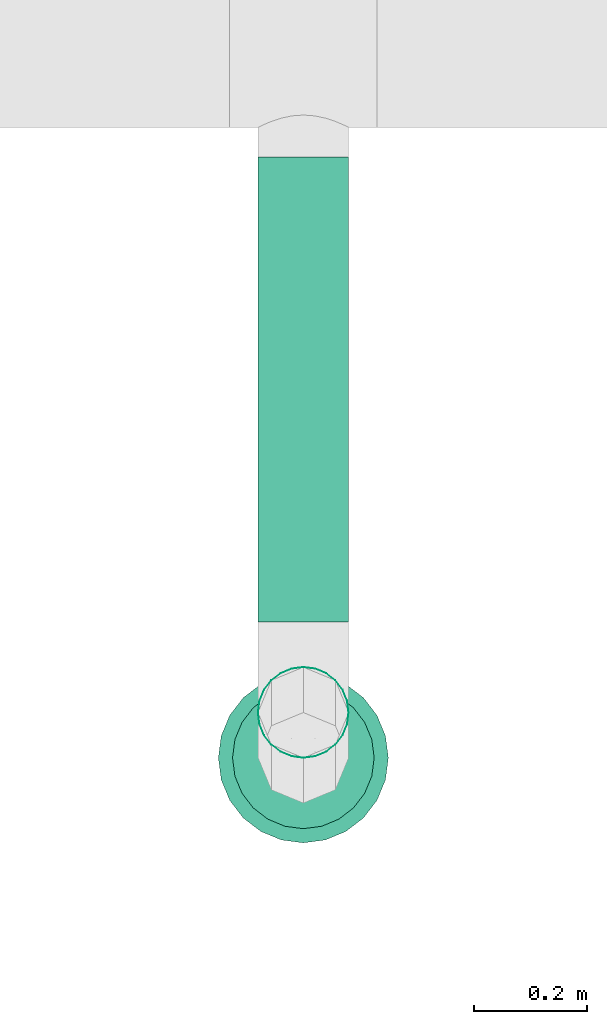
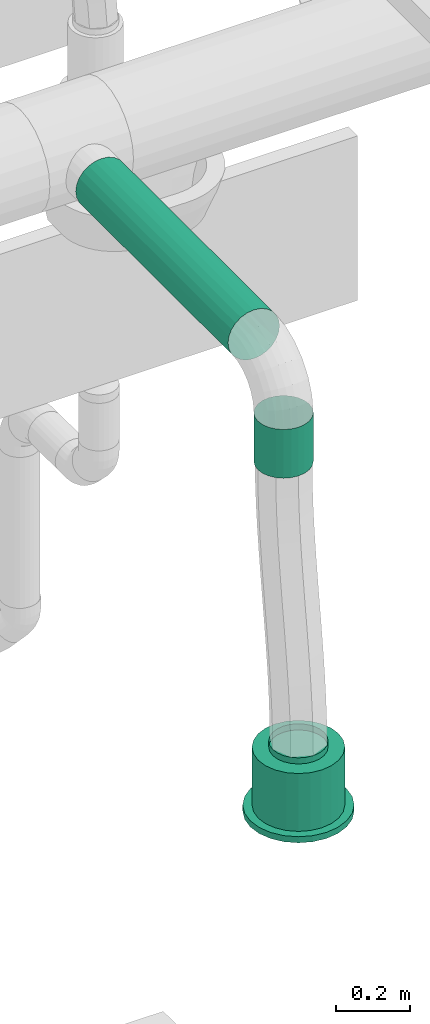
# One storey, part 89 of 374: 2 flow segments, 1 flow terminal.
"""IFC2X3 building model written with IfcOpenShell, lengths in metres."""

from ifc_helpers import new_model, si_unit, direction, origin, place, context, subcontext, project, spatial, open_shell, surface_model, source, transform, mapped, element, save


model = new_model("IFC2X3")

# Units and contexts
model_context = context("Model", 3, precision=1e-05, world=origin(), true_north=direction((-0.4480736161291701, 0.8939966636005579)))
body_context = subcontext(model_context, "Body", "Model", "MODEL_VIEW")
ifc_project = project(units=[si_unit("LENGTHUNIT", "METRE"), si_unit("AREAUNIT", "SQUARE_METRE"), si_unit("VOLUMEUNIT", "CUBIC_METRE"), si_unit("PLANEANGLEUNIT", "RADIAN"), si_unit("THERMODYNAMICTEMPERATUREUNIT", "KELVIN"), si_unit("MASSUNIT", "GRAM", prefix="KILO"), si_unit("TIMEUNIT", "SECOND")], contexts=[model_context])

# Site, building, storey
site_placement = place(None, origin())
site = spatial("IfcSite", under=ifc_project, at=site_placement, Name="Site 1", CompositionType="ELEMENT")
building_placement = place(site_placement, origin())
building = spatial("IfcBuilding", under=site, at=building_placement, Name="Undefined", CompositionType="ELEMENT")
storey_placement = place(building_placement, origin())
storey = spatial("IfcBuildingStorey", under=building, at=storey_placement, Name="Rez de chauss\x8ee", CompositionType="ELEMENT", Elevation=0.0)

# Flow terminal
shared_shape_1 = source(origin(), body_context, "Body", "SurfaceModel", [
    surface_model("IfcFaceBasedSurfaceModel", [(0.0, 0.0, 0.0), (0.03915785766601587, 0.0, 0.0), (0.03915785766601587, 0.020000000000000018, 0.0), (3.552713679e-15, 0.020000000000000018, 0.0), (0.07698144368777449, 0.0, -0.010134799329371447), (0.07698144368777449, 0.020000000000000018, -0.010134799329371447), (0.11089314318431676, 0.0, -0.02971372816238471), (0.11089314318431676, 0.020000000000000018, -0.02971372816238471), (0.13858192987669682, 0.0, -0.05740251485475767), (0.13858192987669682, 0.020000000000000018, -0.05740251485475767), (0.15816085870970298, 0.0, -0.09131421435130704), (0.15816085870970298, 0.020000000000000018, -0.09131421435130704), (0.16829565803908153, 0.0, -0.12913780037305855), (0.16829565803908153, 0.020000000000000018, -0.12913780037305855), (0.16829565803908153, 0.0, -0.16829565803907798), (0.16829565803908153, 0.020000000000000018, -0.16829565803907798), (0.15816085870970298, 0.0, -0.20611924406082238), (0.15816085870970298, 0.020000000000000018, -0.20611924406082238), (0.13858192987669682, 0.0, -0.24003094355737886), (0.13858192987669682, 0.020000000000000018, -0.24003094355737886), (0.11089314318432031, 0.0, -0.2677197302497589), (0.11089314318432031, 0.020000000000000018, -0.2677197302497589), (0.07698144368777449, 0.0, -0.2872986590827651), (0.07698144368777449, 0.020000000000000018, -0.2872986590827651), (0.039157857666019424, 0.0, -0.29743345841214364), (0.039157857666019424, 0.020000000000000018, -0.29743345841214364), (3.552713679e-15, 0.0, -0.29743345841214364), (3.552713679e-15, 0.020000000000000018, -0.29743345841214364), (-0.03782358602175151, 0.0, -0.2872986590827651), (-0.03782358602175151, 0.020000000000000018, -0.2872986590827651), (-0.07173528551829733, 0.0, -0.2677197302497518), (-0.07173528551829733, 0.020000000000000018, -0.2677197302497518), (-0.0994240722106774, 0.0, -0.24003094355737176), (-0.0994240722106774, 0.020000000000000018, -0.24003094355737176), (-0.11900300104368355, 0.0, -0.2061192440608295), (-0.11900300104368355, 0.020000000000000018, -0.2061192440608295), (-0.1291378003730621, 0.0, -0.16829565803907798), (-0.1291378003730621, 0.020000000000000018, -0.16829565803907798), (-0.1291378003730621, 0.0, -0.12913780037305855), (-0.1291378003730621, 0.020000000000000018, -0.12913780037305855), (-0.11900300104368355, 0.0, -0.09131421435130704), (-0.11900300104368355, 0.020000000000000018, -0.09131421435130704), (-0.0994240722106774, 0.0, -0.05740251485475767), (-0.0994240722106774, 0.020000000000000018, -0.05740251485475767), (-0.07173528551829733, 0.0, -0.029713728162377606), (-0.07173528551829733, 0.020000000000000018, -0.029713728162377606), (-0.03782358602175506, 0.0, -0.010134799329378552), (-0.03782358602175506, 0.020000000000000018, -0.010134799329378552), (0.019578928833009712, 0.0, -0.14871672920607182), (0.019578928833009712, 0.020000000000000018, -0.14871672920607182), (0.003263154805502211, 0.020000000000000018, -0.02478612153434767), (0.035894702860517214, 0.020000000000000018, -0.02478612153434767), (0.035894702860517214, 0.20999999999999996, -0.02478612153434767), (0.003263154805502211, 0.20999999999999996, -0.02478612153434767), (0.06741435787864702, 0.020000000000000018, -0.033231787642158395), (0.06741435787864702, 0.20999999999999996, -0.033231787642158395), (0.0956741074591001, 0.020000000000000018, -0.04954756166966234), (0.0956741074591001, 0.20999999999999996, -0.04954756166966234), (0.11874809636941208, 0.020000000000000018, -0.07262155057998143), (0.11874809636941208, 0.20999999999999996, -0.07262155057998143), (0.13506387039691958, 0.020000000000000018, -0.10088130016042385), (0.13506387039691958, 0.20999999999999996, -0.10088130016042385), (0.1435095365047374, 0.020000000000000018, -0.13240095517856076), (0.1435095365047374, 0.20999999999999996, -0.13240095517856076), (0.1435095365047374, 0.020000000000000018, -0.16503250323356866), (0.1435095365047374, 0.20999999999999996, -0.16503250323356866), (0.13506387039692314, 0.020000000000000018, -0.19655215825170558), (0.13506387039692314, 0.20999999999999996, -0.19655215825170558), (0.11874809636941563, 0.020000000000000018, -0.2248119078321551), (0.11874809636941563, 0.20999999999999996, -0.2248119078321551), (0.09567410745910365, 0.020000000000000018, -0.24788589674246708), (0.09567410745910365, 0.20999999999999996, -0.24788589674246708), (0.06741435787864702, 0.020000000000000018, -0.26420167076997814), (0.06741435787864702, 0.20999999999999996, -0.26420167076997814), (0.035894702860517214, 0.020000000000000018, -0.27264733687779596), (0.035894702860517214, 0.20999999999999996, -0.27264733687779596), (0.0032631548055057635, 0.020000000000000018, -0.27264733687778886), (0.0032631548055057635, 0.20999999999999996, -0.27264733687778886), (-0.028256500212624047, 0.020000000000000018, -0.26420167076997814), (-0.028256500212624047, 0.20999999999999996, -0.26420167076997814), (-0.05651624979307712, 0.020000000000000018, -0.2478858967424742), (-0.05651624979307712, 0.20999999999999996, -0.2478858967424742), (-0.07959023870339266, 0.020000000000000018, -0.2248119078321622), (-0.07959023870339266, 0.20999999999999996, -0.2248119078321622), (-0.09590601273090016, 0.020000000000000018, -0.19655215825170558), (-0.09590601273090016, 0.20999999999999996, -0.19655215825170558), (-0.10435167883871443, 0.020000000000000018, -0.16503250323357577), (-0.10435167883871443, 0.20999999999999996, -0.16503250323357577), (-0.10435167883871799, 0.020000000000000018, -0.13240095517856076), (-0.10435167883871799, 0.20999999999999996, -0.13240095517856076), (-0.09590601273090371, 0.020000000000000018, -0.10088130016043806), (-0.09590601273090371, 0.20999999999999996, -0.10088130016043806), (-0.07959023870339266, 0.020000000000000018, -0.07262155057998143), (-0.07959023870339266, 0.20999999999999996, -0.07262155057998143), (-0.056516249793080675, 0.020000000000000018, -0.04954756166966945), (-0.056516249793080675, 0.20999999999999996, -0.04954756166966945), (-0.028256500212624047, 0.020000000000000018, -0.033231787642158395), (-0.028256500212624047, 0.20999999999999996, -0.033231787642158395), (0.019578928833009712, 0.20999999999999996, -0.14871672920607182), (0.009136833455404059, 0.20999999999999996, -0.06940114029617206), (0.030021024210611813, 0.20999999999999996, -0.06940114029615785), (0.030021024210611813, 0.22999999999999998, -0.06940114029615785), (0.009136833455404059, 0.22999999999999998, -0.06940114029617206), (0.05019360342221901, 0.20999999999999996, -0.07480636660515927), (0.05019360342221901, 0.22999999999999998, -0.07480636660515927), (0.06827984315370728, 0.20999999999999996, -0.08524846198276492), (0.06827984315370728, 0.22999999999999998, -0.08524846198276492), (0.0830471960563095, 0.20999999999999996, -0.10001581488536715), (0.0830471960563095, 0.22999999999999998, -0.10001581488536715), (0.0934892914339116, 0.20999999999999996, -0.11810205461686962), (0.0934892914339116, 0.22999999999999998, -0.11810205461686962), (0.09889451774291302, 0.20999999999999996, -0.13827463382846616), (0.09889451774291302, 0.22999999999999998, -0.13827463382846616), (0.09889451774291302, 0.20999999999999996, -0.15915882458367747), (0.09889451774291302, 0.22999999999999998, -0.15915882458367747), (0.09348929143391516, 0.20999999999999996, -0.179331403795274), (0.09348929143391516, 0.22999999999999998, -0.179331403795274), (0.0830471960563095, 0.20999999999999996, -0.19741764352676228), (0.0830471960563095, 0.22999999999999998, -0.19741764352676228), (0.06827984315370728, 0.20999999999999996, -0.2121849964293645), (0.06827984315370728, 0.22999999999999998, -0.2121849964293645), (0.05019360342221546, 0.20999999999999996, -0.22262709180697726), (0.05019360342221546, 0.22999999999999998, -0.22262709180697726), (0.030021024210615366, 0.20999999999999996, -0.22803231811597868), (0.030021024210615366, 0.22999999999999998, -0.22803231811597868), (0.009136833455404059, 0.20999999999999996, -0.22803231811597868), (0.009136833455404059, 0.22999999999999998, -0.22803231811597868), (-0.011035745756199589, 0.20999999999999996, -0.22262709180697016), (-0.011035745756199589, 0.22999999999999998, -0.22262709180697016), (-0.0291219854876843, 0.20999999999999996, -0.2121849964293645), (-0.0291219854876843, 0.22999999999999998, -0.2121849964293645), (-0.043889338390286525, 0.20999999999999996, -0.19741764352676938), (-0.043889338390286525, 0.22999999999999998, -0.19741764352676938), (-0.05433143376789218, 0.20999999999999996, -0.17933140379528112), (-0.05433143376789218, 0.22999999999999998, -0.17933140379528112), (-0.05973666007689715, 0.20999999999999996, -0.15915882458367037), (-0.05973666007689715, 0.22999999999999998, -0.15915882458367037), (-0.0597366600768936, 0.20999999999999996, -0.13827463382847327), (-0.0597366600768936, 0.22999999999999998, -0.13827463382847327), (-0.05433143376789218, 0.20999999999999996, -0.11810205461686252), (-0.05433143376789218, 0.22999999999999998, -0.11810205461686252), (-0.043889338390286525, 0.20999999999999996, -0.10001581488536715), (-0.043889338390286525, 0.22999999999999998, -0.10001581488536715), (-0.02912198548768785, 0.20999999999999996, -0.08524846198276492), (-0.02912198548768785, 0.22999999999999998, -0.08524846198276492), (-0.011035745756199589, 0.20999999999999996, -0.07480636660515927), (-0.011035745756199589, 0.22999999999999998, -0.07480636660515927)], [open_shell([[[0, 1, 2, 3]], [[1, 4, 5, 2]], [[4, 6, 7, 5]], [[6, 8, 9, 7]], [[8, 10, 11, 9]], [[10, 12, 13, 11]], [[12, 14, 15, 13]], [[14, 16, 17, 15]], [[16, 18, 19, 17]], [[18, 20, 21, 19]], [[20, 22, 23, 21]], [[22, 24, 25, 23]], [[24, 26, 27, 25]], [[26, 28, 29, 27]], [[28, 30, 31, 29]], [[30, 32, 33, 31]], [[32, 34, 35, 33]], [[34, 36, 37, 35]], [[36, 38, 39, 37]], [[38, 40, 41, 39]], [[40, 42, 43, 41]], [[42, 44, 45, 43]], [[44, 46, 47, 45]], [[46, 0, 3, 47]], [[48, 1, 0]], [[48, 4, 1]], [[48, 6, 4]], [[48, 8, 6]], [[48, 10, 8]], [[48, 12, 10]], [[48, 14, 12]], [[48, 16, 14]], [[48, 18, 16]], [[48, 20, 18]], [[48, 22, 20]], [[48, 24, 22]], [[48, 26, 24]], [[48, 28, 26]], [[48, 30, 28]], [[48, 32, 30]], [[48, 34, 32]], [[48, 36, 34]], [[48, 38, 36]], [[48, 40, 38]], [[48, 42, 40]], [[48, 44, 42]], [[48, 46, 44]], [[48, 0, 46]], [[49, 47, 3]], [[49, 45, 47]], [[49, 43, 45]], [[49, 41, 43]], [[49, 39, 41]], [[49, 37, 39]], [[49, 35, 37]], [[49, 33, 35]], [[49, 31, 33]], [[49, 29, 31]], [[49, 27, 29]], [[49, 25, 27]], [[49, 23, 25]], [[49, 21, 23]], [[49, 19, 21]], [[49, 17, 19]], [[49, 15, 17]], [[49, 13, 15]], [[49, 11, 13]], [[49, 9, 11]], [[49, 7, 9]], [[49, 5, 7]], [[49, 2, 5]], [[49, 3, 2]], [[50, 51, 52, 53]], [[51, 54, 55, 52]], [[54, 56, 57, 55]], [[56, 58, 59, 57]], [[58, 60, 61, 59]], [[60, 62, 63, 61]], [[62, 64, 65, 63]], [[64, 66, 67, 65]], [[66, 68, 69, 67]], [[68, 70, 71, 69]], [[70, 72, 73, 71]], [[72, 74, 75, 73]], [[74, 76, 77, 75]], [[76, 78, 79, 77]], [[78, 80, 81, 79]], [[80, 82, 83, 81]], [[82, 84, 85, 83]], [[84, 86, 87, 85]], [[86, 88, 89, 87]], [[88, 90, 91, 89]], [[90, 92, 93, 91]], [[92, 94, 95, 93]], [[94, 96, 97, 95]], [[96, 50, 53, 97]], [[49, 51, 50]], [[49, 54, 51]], [[49, 56, 54]], [[49, 58, 56]], [[49, 60, 58]], [[49, 62, 60]], [[49, 64, 62]], [[49, 66, 64]], [[49, 68, 66]], [[49, 70, 68]], [[49, 72, 70]], [[49, 74, 72]], [[49, 76, 74]], [[49, 78, 76]], [[49, 80, 78]], [[49, 82, 80]], [[49, 84, 82]], [[49, 86, 84]], [[49, 88, 86]], [[49, 90, 88]], [[49, 92, 90]], [[49, 94, 92]], [[49, 96, 94]], [[49, 50, 96]], [[98, 97, 53]], [[98, 95, 97]], [[98, 93, 95]], [[98, 91, 93]], [[98, 89, 91]], [[98, 87, 89]], [[98, 85, 87]], [[98, 83, 85]], [[98, 81, 83]], [[98, 79, 81]], [[98, 77, 79]], [[98, 75, 77]], [[98, 73, 75]], [[98, 71, 73]], [[98, 69, 71]], [[98, 67, 69]], [[98, 65, 67]], [[98, 63, 65]], [[98, 61, 63]], [[98, 59, 61]], [[98, 57, 59]], [[98, 55, 57]], [[98, 52, 55]], [[98, 53, 52]], [[99, 100, 101, 102]], [[100, 103, 104, 101]], [[103, 105, 106, 104]], [[105, 107, 108, 106]], [[107, 109, 110, 108]], [[109, 111, 112, 110]], [[111, 113, 114, 112]], [[113, 115, 116, 114]], [[115, 117, 118, 116]], [[117, 119, 120, 118]], [[119, 121, 122, 120]], [[121, 123, 124, 122]], [[123, 125, 126, 124]], [[125, 127, 128, 126]], [[127, 129, 130, 128]], [[129, 131, 132, 130]], [[131, 133, 134, 132]], [[133, 135, 136, 134]], [[135, 137, 138, 136]], [[137, 139, 140, 138]], [[139, 141, 142, 140]], [[141, 143, 144, 142]], [[143, 145, 146, 144]], [[145, 99, 102, 146]]])]),
])
flow_terminal_placement = place(storey_placement, origin())
element("IfcFlowTerminal", 1, at=flow_terminal_placement, inside=storey, Name="Air diffuseur - bouche", ObjectType="Air diffuseur - bouche", context=body_context, shape_type="MappedRepresentation", body=[
    mapped(shared_shape_1, transform((56.290003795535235, 7.104998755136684, 2.38), x_axis=(-0.9914448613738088, -0.13052619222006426, 0.0), y_axis=(0.0, 0.0, 1.0), z_axis=(-0.13052619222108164, 0.9914448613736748, 0.0))),
])

# Flow segments
shared_shape_2 = source(origin(), body_context, "Body", "SurfaceModel", [
    surface_model("IfcFaceBasedSurfaceModel", [(0.0, 0.020884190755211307, 0.0), (0.0, 0.0, 0.0), (0.16000000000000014, 0.0, -4.4408921e-16), (0.16000000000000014, 0.0208841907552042, -4.4408921e-16), (0.0, -0.020172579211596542, -0.005405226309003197), (0.16000000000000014, -0.020172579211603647, -0.005405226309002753), (0.0, -0.03825881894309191, -0.015847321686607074), (0.16000000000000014, -0.03825881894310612, -0.015847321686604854), (0.0, -0.05302617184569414, -0.0306146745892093), (0.16000000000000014, -0.05302617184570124, -0.03061467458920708), (0.0, -0.06346826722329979, -0.04870091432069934), (0.16000000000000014, -0.0634682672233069, -0.04870091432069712), (0.0, -0.06887349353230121, -0.06887349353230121), (0.16000000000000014, -0.06887349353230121, -0.06887349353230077), (0.0, -0.06887349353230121, -0.08975768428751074), (0.16000000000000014, -0.06887349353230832, -0.08975768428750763), (0.0, -0.06346826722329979, -0.10993026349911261), (0.16000000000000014, -0.0634682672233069, -0.10993026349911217), (0.0, -0.05302617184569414, -0.12801650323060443), (0.16000000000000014, -0.05302617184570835, -0.1280165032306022), (0.0, -0.038258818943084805, -0.14278385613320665), (0.16000000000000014, -0.03825881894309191, -0.14278385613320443), (0.0, -0.020172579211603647, -0.15322595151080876), (0.16000000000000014, -0.020172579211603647, -0.1532259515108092), (0.0, 7.105427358e-15, -0.15863117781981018), (0.16000000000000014, -7.105427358e-15, -0.15863117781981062), (0.0, 0.020884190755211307, -0.15863117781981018), (0.16000000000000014, 0.0208841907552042, -0.15863117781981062), (0.0, 0.04105676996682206, -0.15322595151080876), (0.16000000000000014, 0.04105676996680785, -0.1532259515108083), (0.0, 0.05914300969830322, -0.1427838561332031), (0.16000000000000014, 0.05914300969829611, -0.14278385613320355), (0.0, 0.07391036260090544, -0.12801650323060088), (0.16000000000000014, 0.07391036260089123, -0.1280165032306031), (0.0, 0.0843524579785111, -0.10993026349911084), (0.16000000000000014, 0.08435245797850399, -0.10993026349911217), (0.0, 0.08975768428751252, -0.08975768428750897), (0.16000000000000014, 0.08975768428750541, -0.08975768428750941), (0.0, 0.08975768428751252, -0.06887349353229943), (0.16000000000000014, 0.08975768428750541, -0.06887349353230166), (0.0, 0.0843524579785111, -0.048700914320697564), (0.16000000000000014, 0.08435245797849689, -0.04870091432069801), (0.0, 0.07391036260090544, -0.030614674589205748), (0.16000000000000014, 0.07391036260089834, -0.03061467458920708), (0.0, 0.05914300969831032, -0.015847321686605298), (0.16000000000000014, 0.05914300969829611, -0.01584732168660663), (0.0, 0.04105676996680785, -0.005405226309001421), (0.16000000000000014, 0.04105676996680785, -0.005405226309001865)], [open_shell([[[0, 1, 2, 3]], [[1, 4, 5, 2]], [[4, 6, 7, 5]], [[6, 8, 9, 7]], [[8, 10, 11, 9]], [[10, 12, 13, 11]], [[12, 14, 15, 13]], [[14, 16, 17, 15]], [[16, 18, 19, 17]], [[18, 20, 21, 19]], [[20, 22, 23, 21]], [[22, 24, 25, 23]], [[24, 26, 27, 25]], [[26, 28, 29, 27]], [[28, 30, 31, 29]], [[30, 32, 33, 31]], [[32, 34, 35, 33]], [[34, 36, 37, 35]], [[36, 38, 39, 37]], [[38, 40, 41, 39]], [[40, 42, 43, 41]], [[42, 44, 45, 43]], [[44, 46, 47, 45]], [[46, 0, 3, 47]]])]),
])
flow_segment_1_placement = place(storey_placement, origin())
element("IfcFlowSegment", 2, at=flow_segment_1_placement, inside=storey, Name="Tube", ObjectType="Tube", context=body_context, shape_type="MappedRepresentation", body=[
    mapped(shared_shape_2, transform((56.26929827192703, 7.112272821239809, 3.4800000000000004), x_axis=(0.0, 0.0, 1.0), y_axis=(0.9914448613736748, 0.13052619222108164, 0.0), z_axis=(-0.13052619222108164, 0.9914448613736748, 0.0))),
])
shared_shape_3 = source(origin(), body_context, "Body", "SurfaceModel", [
    surface_model("IfcFaceBasedSurfaceModel", [(0.0, 0.020884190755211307, 0.0), (0.0, 0.0, 0.0), (0.8200010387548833, 0.0, 4.4408921e-16), (0.8200010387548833, 0.020884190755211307, -4.4408921e-16), (0.0, -0.020172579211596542, -0.005405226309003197), (0.8200010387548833, -0.020172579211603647, -0.005405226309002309), (0.0, -0.03825881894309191, -0.015847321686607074), (0.8200010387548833, -0.038258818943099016, -0.01584732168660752), (0.0, -0.05302617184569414, -0.0306146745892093), (0.8200010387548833, -0.05302617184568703, -0.0306146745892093), (0.0, -0.06346826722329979, -0.04870091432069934), (0.8200010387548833, -0.06346826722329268, -0.04870091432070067), (0.0, -0.06887349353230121, -0.06887349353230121), (0.8200010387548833, -0.06887349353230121, -0.06887349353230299), (0.0, -0.06887349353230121, -0.08975768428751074), (0.8200010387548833, -0.0688734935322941, -0.08975768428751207), (0.0, -0.06346826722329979, -0.10993026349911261), (0.8200010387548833, -0.06346826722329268, -0.10993026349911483), (0.0, -0.05302617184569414, -0.12801650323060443), (0.8200010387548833, -0.05302617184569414, -0.12801650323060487), (0.0, -0.038258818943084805, -0.14278385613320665), (0.8200010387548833, -0.038258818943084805, -0.14278385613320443), (0.0, -0.020172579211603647, -0.15322595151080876), (0.8200010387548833, -0.020172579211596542, -0.15322595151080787), (0.0, 7.105427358e-15, -0.15863117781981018), (0.8200010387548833, 7.105427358e-15, -0.15863117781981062), (0.0, 0.020884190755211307, -0.15863117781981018), (0.8200010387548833, 0.020884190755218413, -0.1586311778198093), (0.0, 0.04105676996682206, -0.15322595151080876), (0.8200010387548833, 0.04105676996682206, -0.15322595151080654), (0.0, 0.05914300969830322, -0.1427838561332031), (0.8200010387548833, 0.05914300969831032, -0.14278385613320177), (0.0, 0.07391036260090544, -0.12801650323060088), (0.8200010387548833, 0.07391036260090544, -0.12801650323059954), (0.0, 0.0843524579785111, -0.10993026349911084), (0.8200010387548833, 0.0843524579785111, -0.10993026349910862), (0.0, 0.08975768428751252, -0.08975768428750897), (0.8200010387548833, 0.08975768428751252, -0.08975768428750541), (0.0, 0.08975768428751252, -0.06887349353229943), (0.8200010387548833, 0.08975768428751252, -0.06887349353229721), (0.0, 0.0843524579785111, -0.048700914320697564), (0.8200010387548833, 0.0843524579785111, -0.04870091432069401), (0.0, 0.07391036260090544, -0.030614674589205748), (0.8200010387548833, 0.07391036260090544, -0.030614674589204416), (0.0, 0.05914300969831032, -0.015847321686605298), (0.8200010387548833, 0.05914300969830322, -0.01584732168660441), (0.0, 0.04105676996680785, -0.005405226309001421), (0.8200010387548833, 0.041056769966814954, -0.005405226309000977)], [open_shell([[[0, 1, 2, 3]], [[1, 4, 5, 2]], [[4, 6, 7, 5]], [[6, 8, 9, 7]], [[8, 10, 11, 9]], [[10, 12, 13, 11]], [[12, 14, 15, 13]], [[14, 16, 17, 15]], [[16, 18, 19, 17]], [[18, 20, 21, 19]], [[20, 22, 23, 21]], [[22, 24, 25, 23]], [[24, 26, 27, 25]], [[26, 28, 29, 27]], [[28, 30, 31, 29]], [[30, 32, 33, 31]], [[32, 34, 35, 33]], [[34, 36, 37, 35]], [[36, 38, 39, 37]], [[38, 40, 41, 39]], [[40, 42, 43, 41]], [[42, 44, 45, 43]], [[44, 46, 47, 45]], [[46, 0, 3, 47]]])]),
])
flow_segment_2_placement = place(storey_placement, origin())
element("IfcFlowSegment", 3, at=flow_segment_2_placement, inside=storey, Name="Tube", ObjectType="Tube", context=body_context, shape_type="MappedRepresentation", body=[
    mapped(shared_shape_3, transform((56.26929827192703, 8.014999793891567, 3.877274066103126), x_axis=(0.0, -1.0, 0.0), y_axis=(0.9914448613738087, 0.0, 0.13052619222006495), z_axis=(-0.13052619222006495, 0.0, 0.9914448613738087))),
])

save(model, "model.ifc")
